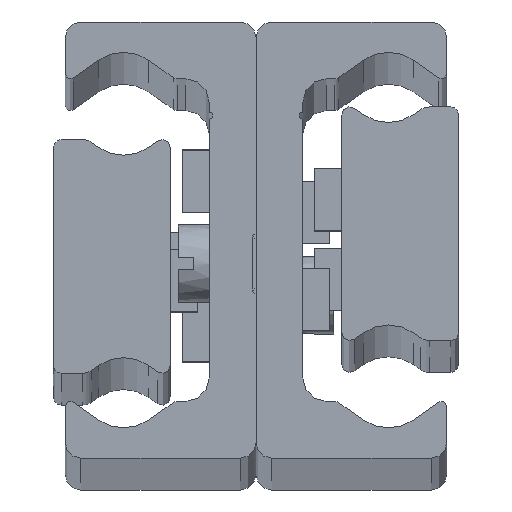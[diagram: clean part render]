
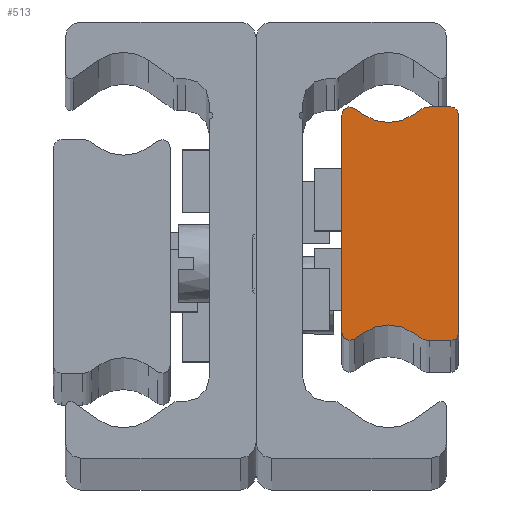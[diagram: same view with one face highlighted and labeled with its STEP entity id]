
A CAD part, top view. The second image highlights one B-rep face of the part: STEP entity #513.
In plain terms, the highlighted planar face has unit normal (0, 0, 1) as drawn and (0, 0, -1) by its records, which use the part's own axes.
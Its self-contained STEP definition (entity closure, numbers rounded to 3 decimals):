
#513 = ADVANCED_FACE( '', ( #1144 ), #1145, .F. );
#1144 = FACE_OUTER_BOUND( '', #1898, .T. );
#1145 = PLANE( '', #1899 );
#1898 = EDGE_LOOP( '', ( #3111, #3112, #3113, #3114, #3115, #3116, #3117, #3118, #3119, #3120, #3121, #3122, #3123, #3124, #3125, #3126 ) );
#1899 = AXIS2_PLACEMENT_3D( '', #3127, #3128, #3129 );
#3111 = ORIENTED_EDGE( '', *, *, #4173, .F. );
#3112 = ORIENTED_EDGE( '', *, *, #4174, .F. );
#3113 = ORIENTED_EDGE( '', *, *, #4101, .F. );
#3114 = ORIENTED_EDGE( '', *, *, #4125, .F. );
#3115 = ORIENTED_EDGE( '', *, *, #3904, .F. );
#3116 = ORIENTED_EDGE( '', *, *, #4130, .T. );
#3117 = ORIENTED_EDGE( '', *, *, #4175, .F. );
#3118 = ORIENTED_EDGE( '', *, *, #4168, .F. );
#3119 = ORIENTED_EDGE( '', *, *, #4016, .F. );
#3120 = ORIENTED_EDGE( '', *, *, #3953, .F. );
#3121 = ORIENTED_EDGE( '', *, *, #4176, .F. );
#3122 = ORIENTED_EDGE( '', *, *, #4177, .T. );
#3123 = ORIENTED_EDGE( '', *, *, #4105, .F. );
#3124 = ORIENTED_EDGE( '', *, *, #4178, .F. );
#3125 = ORIENTED_EDGE( '', *, *, #4179, .F. );
#3126 = ORIENTED_EDGE( '', *, *, #4180, .F. );
#3127 = CARTESIAN_POINT( '', ( 0.5, -7., -1170. ) );
#3128 = DIRECTION( '', ( 0., 0., 1. ) );
#3129 = DIRECTION( '', ( 1., 0., 0. ) );
#3904 = EDGE_CURVE( '', #4593, #4595, #4596, .T. );
#3953 = EDGE_CURVE( '', #4675, #4677, #4678, .T. );
#4016 = EDGE_CURVE( '', #4677, #4780, #4781, .T. );
#4101 = EDGE_CURVE( '', #4904, #4906, #4907, .T. );
#4105 = EDGE_CURVE( '', #4910, #4912, #4913, .T. );
#4125 = EDGE_CURVE( '', #4595, #4904, #4940, .T. );
#4130 = EDGE_CURVE( '', #4593, #4945, #4947, .T. );
#4168 = EDGE_CURVE( '', #4780, #4998, #4999, .T. );
#4173 = EDGE_CURVE( '', #5005, #5006, #5007, .T. );
#4174 = EDGE_CURVE( '', #4906, #5005, #5008, .T. );
#4175 = EDGE_CURVE( '', #4998, #4945, #5009, .T. );
#4176 = EDGE_CURVE( '', #5010, #4675, #5011, .T. );
#4177 = EDGE_CURVE( '', #5010, #4912, #5012, .T. );
#4178 = EDGE_CURVE( '', #5013, #4910, #5014, .T. );
#4179 = EDGE_CURVE( '', #5015, #5013, #5016, .T. );
#4180 = EDGE_CURVE( '', #5006, #5015, #5017, .T. );
#4593 = VERTEX_POINT( '', #5522 );
#4595 = VERTEX_POINT( '', #5525 );
#4596 = LINE( '', #5526, #5527 );
#4675 = VERTEX_POINT( '', #5626 );
#4677 = VERTEX_POINT( '', #5629 );
#4678 = CIRCLE( '', #5630, 0.523 );
#4780 = VERTEX_POINT( '', #5754 );
#4781 = LINE( '', #5755, #5756 );
#4904 = VERTEX_POINT( '', #5910 );
#4906 = VERTEX_POINT( '', #5913 );
#4907 = LINE( '', #5914, #5915 );
#4910 = VERTEX_POINT( '', #5919 );
#4912 = VERTEX_POINT( '', #5922 );
#4913 = LINE( '', #5923, #5924 );
#4940 = CIRCLE( '', #5955, 1. );
#4945 = VERTEX_POINT( '', #5960 );
#4947 = CIRCLE( '', #5963, 2.778 );
#4998 = VERTEX_POINT( '', #6028 );
#4999 = CIRCLE( '', #6029, 0.523 );
#5005 = VERTEX_POINT( '', #6036 );
#5006 = VERTEX_POINT( '', #6037 );
#5007 = LINE( '', #6038, #6039 );
#5008 = CIRCLE( '', #6040, 0.5 );
#5009 = LINE( '', #6041, #6042 );
#5010 = VERTEX_POINT( '', #6043 );
#5011 = LINE( '', #6044, #6045 );
#5012 = CIRCLE( '', #6046, 2.778 );
#5013 = VERTEX_POINT( '', #6047 );
#5014 = CIRCLE( '', #6048, 1. );
#5015 = VERTEX_POINT( '', #6049 );
#5016 = LINE( '', #6050, #6051 );
#5017 = CIRCLE( '', #6052, 0.5 );
#5522 = CARTESIAN_POINT( '', ( 2.907, 6.997, -1170. ) );
#5525 = CARTESIAN_POINT( '', ( 2.446, 7.319, -1170. ) );
#5526 = CARTESIAN_POINT( '', ( 2.907, 6.997, -1170. ) );
#5527 = VECTOR( '', #6504, 1000. );
#5626 = CARTESIAN_POINT( '', ( 6.677, -7.405, -1170. ) );
#5629 = CARTESIAN_POINT( '', ( 7.5, -6.977, -1170. ) );
#5630 = AXIS2_PLACEMENT_3D( '', #6568, #6569, #6570 );
#5754 = CARTESIAN_POINT( '', ( 7.5, 6.977, -1170. ) );
#5755 = CARTESIAN_POINT( '', ( 7.5, -6.977, -1170. ) );
#5756 = VECTOR( '', #6674, 1000. );
#5910 = CARTESIAN_POINT( '', ( 1.873, 7.5, -1170. ) );
#5913 = CARTESIAN_POINT( '', ( 0.5, 7.5, -1170. ) );
#5914 = CARTESIAN_POINT( '', ( 1.873, 7.5, -1170. ) );
#5915 = VECTOR( '', #6785, 1000. );
#5919 = CARTESIAN_POINT( '', ( 2.446, -7.319, -1170. ) );
#5922 = CARTESIAN_POINT( '', ( 2.907, -6.997, -1170. ) );
#5923 = CARTESIAN_POINT( '', ( 2.446, -7.319, -1170. ) );
#5924 = VECTOR( '', #6788, 1000. );
#5955 = AXIS2_PLACEMENT_3D( '', #6814, #6815, #6816 );
#5960 = CARTESIAN_POINT( '', ( 6.093, 6.997, -1170. ) );
#5963 = AXIS2_PLACEMENT_3D( '', #6821, #6822, #6823 );
#6028 = CARTESIAN_POINT( '', ( 6.677, 7.405, -1170. ) );
#6029 = AXIS2_PLACEMENT_3D( '', #6865, #6866, #6867 );
#6036 = CARTESIAN_POINT( '', ( 0., 7., -1170. ) );
#6037 = CARTESIAN_POINT( '', ( 0., -7., -1170. ) );
#6038 = CARTESIAN_POINT( '', ( 0., 7., -1170. ) );
#6039 = VECTOR( '', #6872, 1000. );
#6040 = AXIS2_PLACEMENT_3D( '', #6873, #6874, #6875 );
#6041 = CARTESIAN_POINT( '', ( 6.677, 7.405, -1170. ) );
#6042 = VECTOR( '', #6876, 1000. );
#6043 = CARTESIAN_POINT( '', ( 6.093, -6.997, -1170. ) );
#6044 = CARTESIAN_POINT( '', ( 6.093, -6.997, -1170. ) );
#6045 = VECTOR( '', #6877, 1000. );
#6046 = AXIS2_PLACEMENT_3D( '', #6878, #6879, #6880 );
#6047 = CARTESIAN_POINT( '', ( 1.873, -7.5, -1170. ) );
#6048 = AXIS2_PLACEMENT_3D( '', #6881, #6882, #6883 );
#6049 = CARTESIAN_POINT( '', ( 0.5, -7.5, -1170. ) );
#6050 = CARTESIAN_POINT( '', ( 0.5, -7.5, -1170. ) );
#6051 = VECTOR( '', #6884, 1000. );
#6052 = AXIS2_PLACEMENT_3D( '', #6885, #6886, #6887 );
#6504 = DIRECTION( '', ( -0.819, 0.574, 0. ) );
#6568 = CARTESIAN_POINT( '', ( 6.977, -6.977, -1170. ) );
#6569 = DIRECTION( '', ( 0., 0., 1. ) );
#6570 = DIRECTION( '', ( 1., 0., 0. ) );
#6674 = DIRECTION( '', ( 0., 1., 0. ) );
#6785 = DIRECTION( '', ( -1., 0., 0. ) );
#6788 = DIRECTION( '', ( 0.819, 0.574, 0. ) );
#6814 = CARTESIAN_POINT( '', ( 1.873, 6.5, -1170. ) );
#6815 = DIRECTION( '', ( 0., 0., 1. ) );
#6816 = DIRECTION( '', ( 1., 0., 0. ) );
#6821 = CARTESIAN_POINT( '', ( 4.5, 9.272, -1170. ) );
#6822 = DIRECTION( '', ( 0., 0., 1. ) );
#6823 = DIRECTION( '', ( 1., 0., 0. ) );
#6865 = CARTESIAN_POINT( '', ( 6.977, 6.977, -1170. ) );
#6866 = DIRECTION( '', ( 0., 0., 1. ) );
#6867 = DIRECTION( '', ( 1., 0., 0. ) );
#6872 = DIRECTION( '', ( 0., -1., 0. ) );
#6873 = CARTESIAN_POINT( '', ( 0.5, 7., -1170. ) );
#6874 = DIRECTION( '', ( 0., 0., 1. ) );
#6875 = DIRECTION( '', ( 1., 0., 0. ) );
#6876 = DIRECTION( '', ( -0.819, -0.574, 0. ) );
#6877 = DIRECTION( '', ( 0.819, -0.574, 0. ) );
#6878 = CARTESIAN_POINT( '', ( 4.5, -9.272, -1170. ) );
#6879 = DIRECTION( '', ( 0., 0., 1. ) );
#6880 = DIRECTION( '', ( 1., 0., 0. ) );
#6881 = CARTESIAN_POINT( '', ( 1.873, -6.5, -1170. ) );
#6882 = DIRECTION( '', ( 0., 0., 1. ) );
#6883 = DIRECTION( '', ( 1., 0., 0. ) );
#6884 = DIRECTION( '', ( 1., 0., 0. ) );
#6885 = CARTESIAN_POINT( '', ( 0.5, -7., -1170. ) );
#6886 = DIRECTION( '', ( 0., 0., 1. ) );
#6887 = DIRECTION( '', ( 1., 0., 0. ) );
